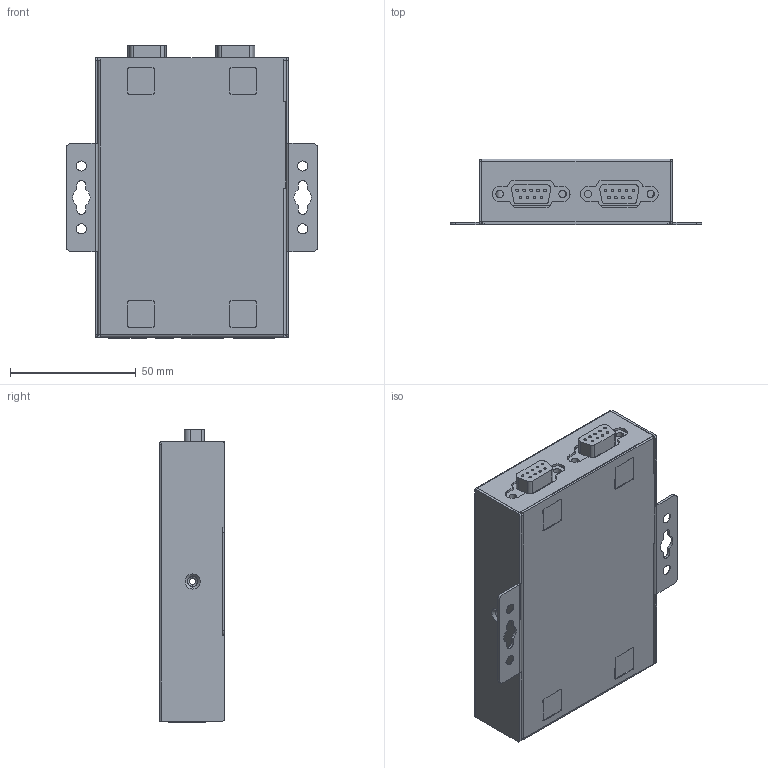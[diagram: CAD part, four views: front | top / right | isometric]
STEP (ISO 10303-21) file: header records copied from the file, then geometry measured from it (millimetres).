
FILE_DESCRIPTION((''),'2;1');
FILE_NAME('PRT0001','2014-07-16T',('Laban_Liu'),(''),'PRO/ENGINEER BY PARAMETRIC TECHNOLOGY CORPORATION, 2013230','PRO/ENGINEER BY PARAMETRIC TECHNOLOGY CORPORATION, 2013230','');
FILE_SCHEMA(('AUTOMOTIVE_DESIGN { 1 0 10303 214 1 1 1 1 }'));
Length unit declared in the file: inch
Products named in the file (1): PRT0001
Bounding box: 100 x 26 x 116.15 mm (x, y, z)
Volume: 59249.9 mm3; surface area: 97605.5 mm2
Topology: 3 solids, 13 shells, 1297 faces, 3222 edges, 2082 vertices
Faces by surface type: plane 704, cylinder 523, torus 34, sphere 20, cone 14, bspline 2
Entity records: 51212 total; most frequent: DIRECTION 6933, CARTESIAN_POINT 6827, ORIENTED_EDGE 6404, PRESENTATION_STYLE_ASSIGNMENT 3582, STYLED_ITEM 3206, CURVE_STYLE 3203, EDGE_CURVE 3202, AXIS2_PLACEMENT_3D 2454
